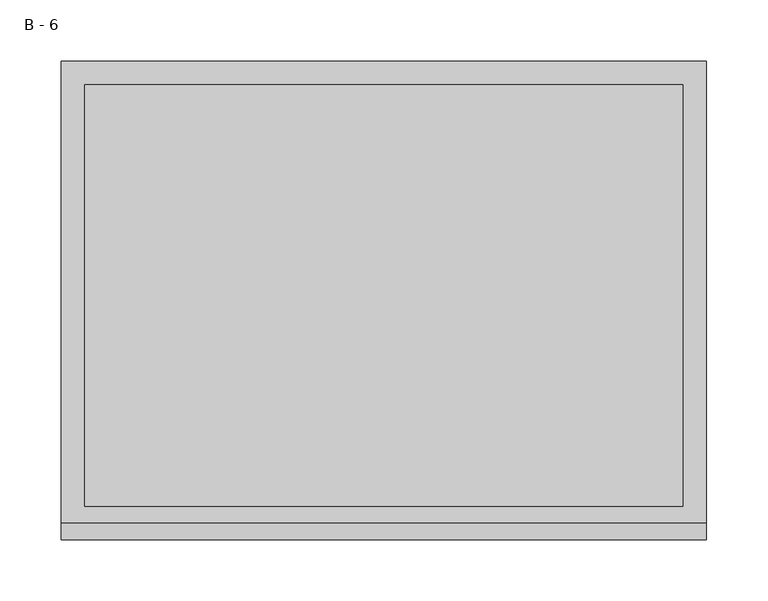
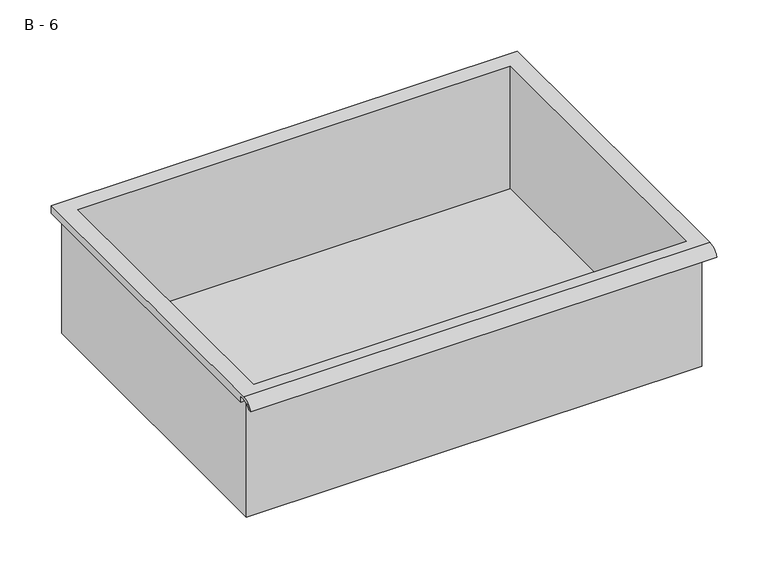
"""IFC4 building model written with IfcOpenShell, lengths in millimetres: furniture geometry, HermanMiller_CoStruc_CO207_Drawer : B - 6."""

from ifc_helpers import new_model, si_unit, frame, origin, place, context, project, spatial, polyline, circle_curve, source, transform, mapped, element, save
from ifc_brep_helpers import plane_surface, cylinder_surface, revolved_surface, advanced_brep


def b_6_3d2ec204(model_context):
    return source(origin(), model_context, "Body", "AdvancedBrep", [
        advanced_brep(
        [(-257.1076517, -176.2125, 573.1002), (257.2423483, -176.2125, 573.1002), (257.2423483, -176.2125, 712.8002), (263.5923483, -176.2125, 712.8002), (263.5923483, -176.2125, 719.1073341), (-263.4576517, -176.2125, 719.1073341), (-263.4576517, -176.2125, 712.8002), (-257.1076517, -176.2125, 712.8002), (257.2423483, 185.7375, 573.1002), (-257.1076517, 185.7375, 573.1002), (-257.1076517, 185.7375, 712.8002), (257.2423483, 185.7375, 712.8002), (263.5923483, -181.6070544, 722.3252), (263.5923483, 195.2625, 722.3252), (-263.4576517, 195.2625, 722.3252), (-263.4576517, -181.6070544, 722.3252), (244.5423483, -168.275, 722.3252), (-244.4076517, -168.275, 722.3252), (-244.4076517, 176.2125, 722.3252), (244.5423483, 176.2125, 722.3252), (263.5923483, -195.2625, 712.8002), (263.5923483, -191.8280601, 712.8002), (263.5923483, -180.4714815, 719.1073341), (263.5923483, 195.2625, 712.8002), (-263.4576517, 195.2625, 712.8002), (-263.4576517, -180.4714815, 719.1073341), (-263.4576517, -191.8280601, 712.8002), (-263.4576517, -195.2625, 712.8002), (-244.4076517, -168.275, 576.1263719), (244.5423483, -168.275, 576.1263719), (244.5423483, 176.2125, 576.1263719), (-244.4076517, 176.2125, 576.1263719)],
        [
            (0, 1),
            (1, 2),
            (2, 3),
            (3, 4),
            (4, 5),
            (5, 6),
            (6, 7),
            (7, 0),
            (8, 9),
            (9, 10),
            (10, 11),
            (11, 8),
            (0, 9),
            (8, 1),
            (11, 2),
            (12, 13),
            (13, 14),
            (14, 15),
            (15, 12),
            (16, 17),
            (17, 18),
            (18, 19),
            (19, 16),
            (7, 10),
            (12, 20, circle_curve(frame((263.5923483, -181.6070544, 707.7741859), z_axis=(1.0, 0.0, 0.0), x_axis=(0.0, 1.0, 0.0)), 14.5510141)),
            (20, 21),
            (21, 22, circle_curve(frame((263.5923483, -181.6070544, 707.7741859), z_axis=(-1.0, 0.0, 0.0), x_axis=(0.0, 1.0, 0.0)), 11.3898979)),
            (22, 4),
            (3, 23),
            (23, 13),
            (14, 24),
            (24, 6),
            (5, 25),
            (25, 26, circle_curve(frame((-263.4576517, -181.6070544, 707.7741859), z_axis=(1.0, 0.0, 0.0), x_axis=(0.0, 1.0, 0.0)), 11.3898979)),
            (26, 27),
            (27, 15, circle_curve(frame((-263.4576517, -181.6070544, 707.7741859), z_axis=(-1.0, 0.0, 0.0), x_axis=(0.0, 1.0, 0.0)), 14.5510141)),
            (27, 20),
            (26, 21),
            (25, 22),
            (24, 23),
            (28, 29),
            (29, 30),
            (30, 31),
            (31, 28),
            (28, 17),
            (16, 29),
            (19, 30),
            (18, 31),
        ],
        [
            plane_surface(frame((257.2423483, -176.2125, 573.1002), z_axis=(0.0, -1.0, 0.0), x_axis=(1.0, 0.0, 0.0))),
            plane_surface(frame((257.2423483, 185.7375, 573.1002), z_axis=(0.0, 1.0, 0.0), x_axis=(-1.0, 0.0, 0.0))),
            plane_surface(frame((-257.1076517, -176.2125, 573.1002), z_axis=(0.0, 0.0, -1.0), x_axis=(0.0, 1.0, 0.0))),
            plane_surface(frame((257.2423483, -176.2125, 573.1002), z_axis=(1.0, 0.0, 0.0), x_axis=(0.0, 1.0, 0.0))),
            plane_surface(frame((257.2423483, -176.2125, 722.3252), z_axis=(0.0, 0.0, 1.0), x_axis=(0.0, 1.0, 0.0))),
            plane_surface(frame((-257.1076517, -176.2125, 722.3252), z_axis=(-1.0, 0.0, 0.0), x_axis=(0.0, 1.0, 0.0))),
            plane_surface(frame((263.5923483, 195.2625, 722.3252), z_axis=(1.0, 0.0, 0.0), x_axis=(0.0, -1.0, 0.0))),
            plane_surface(frame((-263.4576517, 195.2625, 722.3252), z_axis=(-1.0, 0.0, 0.0), x_axis=(0.0, 1.0, 0.0))),
            cylinder_surface(frame((-263.4576517, -181.6070544, 707.7741859), z_axis=(1.0, 0.0, 0.0), x_axis=(0.0, 1.0, 0.0)), 14.5510141),
            plane_surface(frame((263.5923483, -195.2625, 712.8002), z_axis=(0.0, -7.09417289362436e-12, -1.0), x_axis=(-1.0, 0.0, 0.0))),
            revolved_surface(polyline([(-263.4576517, -170.21715650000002, 707.7741859), (263.59234829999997, -170.21715650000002, 707.7741859)]), (-263.4576517, -181.6070544, 707.7741859), (-1.0, 0.0, 0.0)),
            plane_surface(frame((263.5923483, -180.4714815, 719.1073341), z_axis=(0.0, -1.7638937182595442e-11, -1.0), x_axis=(-1.0, 0.0, 0.0))),
            plane_surface(frame((263.5923483, -176.2125, 712.8002), z_axis=(0.0, 0.0, -1.0), x_axis=(-1.0, 0.0, 0.0))),
            plane_surface(frame((263.5923483, 195.2625, 712.8002), z_axis=(0.0, 1.0, 0.0), x_axis=(-1.0, 0.0, 0.0))),
            plane_surface(frame((244.5423483, -168.275, 576.1263719), z_axis=(0.0, 0.0, 1.0), x_axis=(-1.0, 0.0, 0.0))),
            plane_surface(frame((-244.4076517, -168.275, 722.3252), z_axis=(0.0, 1.0, 0.0), x_axis=(0.0, 0.0, -1.0))),
            plane_surface(frame((244.5423483, -168.275, 722.3252), z_axis=(-1.0, 0.0, 0.0), x_axis=(0.0, 0.0, -1.0))),
            plane_surface(frame((244.5423483, 176.2125, 722.3252), z_axis=(0.0, -1.0, 0.0), x_axis=(0.0, 0.0, -1.0))),
            plane_surface(frame((-244.4076517, 176.2125, 722.3252), z_axis=(1.0, 0.0, 0.0), x_axis=(0.0, 0.0, -1.0))),
        ],
        [
            (0, [[1, 2, 3, 4, 5, 6, 7, 8]]),
            (1, [[9, 10, 11, 12]]),
            (2, [[-1, 13, -9, 14]]),
            (3, [[-14, -12, 15, -2]]),
            (4, [[16, 17, 18, 19], [20, 21, 22, 23]]),
            (5, [[-13, -8, 24, -10]]),
            (6, [[-16, 25, 26, 27, 28, -4, 29, 30]]),
            (7, [[31, 32, -6, 33, 34, 35, 36, -18]]),
            (8, [[-25, -19, -36, 37]]),
            (9, [[-26, -37, -35, 38]]),
            (10, [[-27, -38, -34, 39]]),
            (11, [[-28, -39, -33, -5]]),
            (12, [[-29, -3, -15, -11, -24, -7, -32, 40]]),
            (13, [[-30, -40, -31, -17]]),
            (14, [[41, 42, 43, 44]]),
            (15, [[-41, 45, -20, 46]]),
            (16, [[-42, -46, -23, 47]]),
            (17, [[-43, -47, -22, 48]]),
            (18, [[-44, -48, -21, -45]]),
        ],
    ),
    ])


if __name__ == "__main__":
    model = new_model("IFC4")
    model_context = context("Model", 3, world=origin())
    ifc_project = project(units=[si_unit("LENGTHUNIT", "METRE", prefix="MILLI")], contexts=[model_context])
    site = spatial("IfcSite", under=ifc_project)
    building = spatial("IfcBuilding", under=site)
    placement = place(None, origin())
    b_6_shape = b_6_3d2ec204(model_context)
    element("IfcFurniture", 1, ObjectType="HermanMiller_CoStruc_CO207_Drawer : B - 6", at=placement, inside=building, context=model_context, shape_type="MappedRepresentation", body=[
        mapped(b_6_shape, transform((0.0, 0.0, 0.0), x_axis=(1.0, 0.0, 0.0), y_axis=(0.0, 1.0, 0.0), z_axis=(0.0, 0.0, 1.0))),
    ])
    save(model, "model.ifc")
